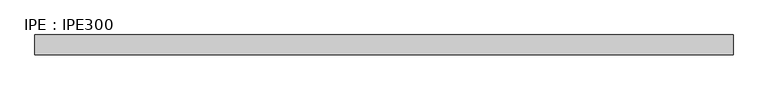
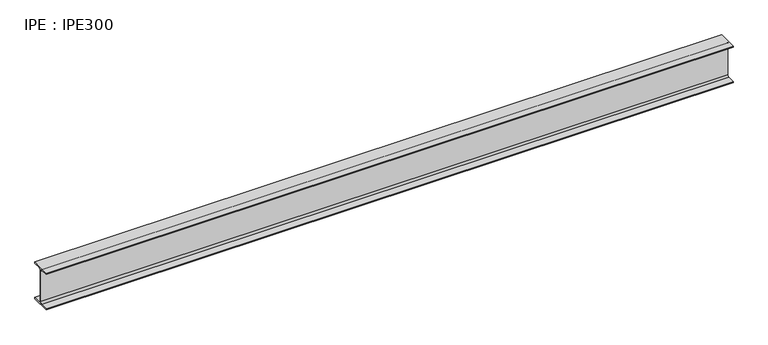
"""IFC4 building model written with IfcOpenShell, lengths in millimetres: beam geometry, IPE : IPE300."""

from ifc_helpers import new_model, si_unit, point, frame, frame_2d, origin, place, context, project, spatial, polyline, circle_curve, trimmed, segment, composite_curve, outline, extrude, source, transform, mapped, element, save


def ipe_ipe300_38b31347(model_context):
    return source(origin(), model_context, "Body", "SweptSolid", [
        extrude(outline(composite_curve([segment(polyline([(75.0, -139.3), (75.0, -150.0), (-75.0, -150.0), (-75.0, -139.3), (-18.55, -139.3)]), True, "CONTINUOUS"), segment(trimmed(circle_curve(frame_2d((-18.55, -124.3)), 15.0), [point((-18.55, -139.3))], [point((-3.55, -124.3))], True, "CARTESIAN"), True, "CONTINUOUS"), segment(polyline([(-3.55, -124.3), (-3.55, 124.3)]), True, "CONTINUOUS"), segment(trimmed(circle_curve(frame_2d((-18.55, 124.3)), 15.0), [point((-3.55, 124.3))], [point((-18.55, 139.3))], True, "CARTESIAN"), True, "CONTINUOUS"), segment(polyline([(-18.55, 139.3), (-75.0, 139.3), (-75.0, 150.0), (75.0, 150.0), (75.0, 139.3), (18.55, 139.3)]), True, "CONTINUOUS"), segment(trimmed(circle_curve(frame_2d((18.55, 124.3)), 15.0), [point((18.55, 139.3))], [point((3.55, 124.3))], True, "CARTESIAN"), True, "CONTINUOUS"), segment(polyline([(3.55, 124.3), (3.55, -124.3)]), True, "CONTINUOUS"), segment(trimmed(circle_curve(frame_2d((18.55, -124.3)), 15.0), [point((3.55, -124.3))], [point((18.55, -139.3))], True, "CARTESIAN"), True, "CONTINUOUS"), segment(polyline([(18.55, -139.3), (75.0, -139.3)]), True, "CONTINUOUS")], self_intersect=False)), frame((-2603.3, 0.0, 0.0), z_axis=(1.0, 0.0, 0.0), x_axis=(0.0, 1.0, 0.0)), (0.0, 0.0, 1.0), 5283.3),
    ])


if __name__ == "__main__":
    model = new_model("IFC4")
    model_context = context("Model", 3, world=origin())
    ifc_project = project(units=[si_unit("LENGTHUNIT", "METRE", prefix="MILLI")], contexts=[model_context])
    site = spatial("IfcSite", under=ifc_project)
    building = spatial("IfcBuilding", under=site)
    placement = place(None, origin())
    ipe_ipe300_shape = ipe_ipe300_38b31347(model_context)
    element("IfcBeam", 1, ObjectType="IPE : IPE300", at=placement, inside=building, context=model_context, shape_type="MappedRepresentation", body=[
        mapped(ipe_ipe300_shape, transform((0.0, 0.0, 0.0), x_axis=(1.0, 0.0, 0.0), y_axis=(0.0, 1.0, 0.0), z_axis=(0.0, 0.0, 1.0))),
    ])
    save(model, "model.ifc")
